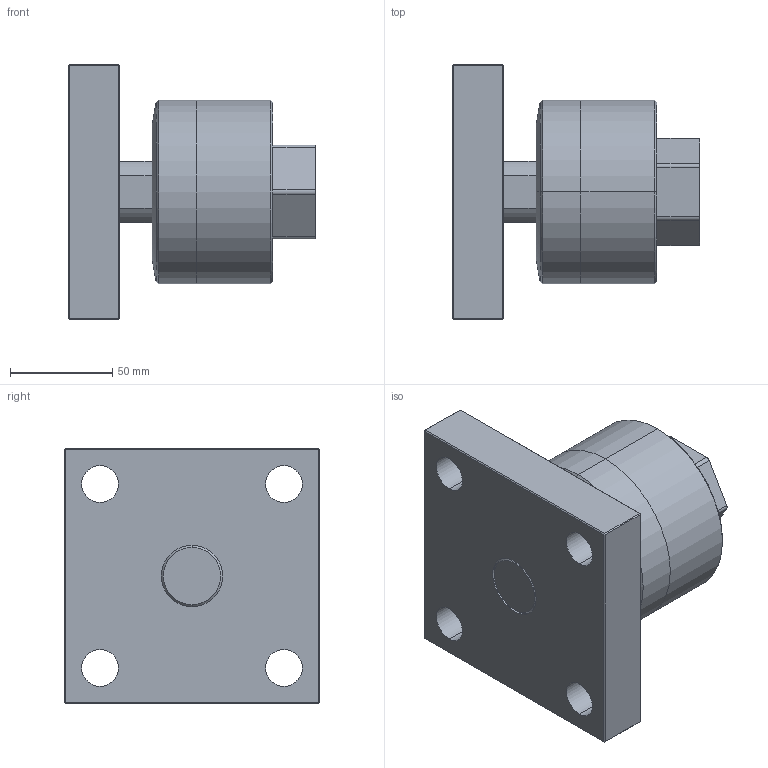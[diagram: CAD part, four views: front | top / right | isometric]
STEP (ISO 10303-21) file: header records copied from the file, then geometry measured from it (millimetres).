
FILE_DESCRIPTION (( 'STEP AP203' ), '1' );
FILE_NAME ('FCM30-1.5-F.STEP', '2016-04-14T02:00:52', ( '' ), ( '' ), 'SwSTEP 2.0', 'SolidWorks 2014', '' );
FILE_SCHEMA (( 'CONFIG_CONTROL_DESIGN' ));
Length unit declared in the file: millimetre
Products named in the file (3): FCM30-1.5-F; FCM30-1.5(F); FCM30-F
Assembly tree (2 placements, depth 2):
  FCM30-1.5-F
    FCM30-1.5(F)
    FCM30-F
Bounding box: 121 x 125 x 125 mm (x, y, z)
Volume: 771391.5 mm3; surface area: 86074.2 mm2
Topology: 2 solids, 2 shells, 81 faces, 182 edges, 108 vertices
Faces by surface type: plane 45, cylinder 28, cone 8
Entity records: 2545 total; most frequent: DIRECTION 418, CARTESIAN_POINT 376, ORIENTED_EDGE 364, EDGE_CURVE 182, AXIS2_PLACEMENT_3D 150, VECTOR 118, LINE 118, VERTEX_POINT 108
